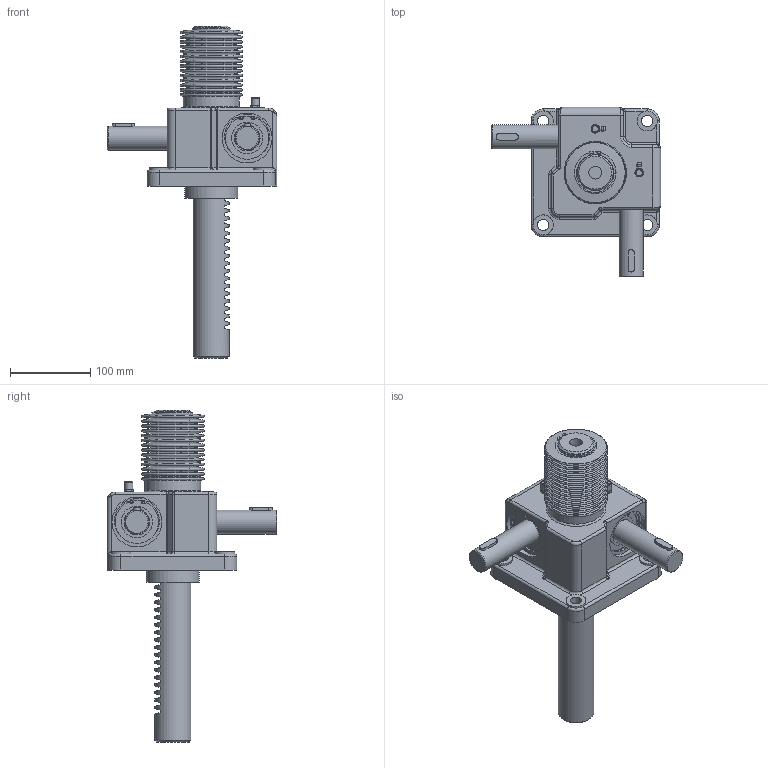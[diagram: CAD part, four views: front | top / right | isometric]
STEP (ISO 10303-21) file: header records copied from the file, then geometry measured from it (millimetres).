
FILE_DESCRIPTION(('STEP AP203'),'1');
FILE_NAME('SP1-5000CJ-200ST.stp','2016-08-18T01:50:23',(' '),(' '),'Spatial InterOp 3D',' ',' ');
FILE_SCHEMA(('CONFIG_CONTROL_DESIGN'));
Length unit declared in the file: millimetre
Products named in the file (25): SP1-5000CJ-200ST; SnapRing-42Pie; Rack Gear(SP-5000C); Bellow(SP-5000); Body-Part; Nipple; SnapRing-61Pie; SnapRing-65Pie; Key; Shaft; #858; #875; Du Bush; Gear Box(NSP-5000); RJ05-4SCJ-610X600-100ST_CAP; LABEL-B.1; ___; 파트18; __
Assembly tree (24 placements, depth 6):
  SP1-5000CJ-200ST
    SnapRing-42Pie
    Rack Gear(SP-5000C)
    Bellow(SP-5000)
    Body-Part
      Nipple
      Nipple
      SnapRing-61Pie
      SnapRing-61Pie
      SnapRing-65Pie
      SnapRing-65Pie
      Key
      Key
      Shaft
      Shaft
      #858
      #875
      Du Bush
      Du Bush
      Gear Box(NSP-5000)
      __
        ___
          RJ05-4SCJ-610X600-100ST_CAP
            LABEL-B.1
          파트18
Bounding box: 212 x 212.22 x 415 mm (x, y, z)
Volume: 1870832 mm3; surface area: 513644.6 mm2
Topology: 27 solids, 27 shells, 2633 faces, 7146 edges, 4605 vertices
Faces by surface type: plane 2094, cylinder 293, cone 92, torus 78, sphere 62, bspline 10, revolution 4
Full cylindrical faces by diameter (mm): 2.783 x2, 3.42 x4, 3.642 x4, 5.6 x2, 8 x2, 9.886 x2, 14 x4, 16 x1, 24 x2, 25 x4, 30 x4, 34 x2, 39.2 x4, 42 x1, 45 x18, 50 x1, 54.4 x4, 55 x4, 58 x2, 60 x2, 61 x2, 62 x4, 62.4 x2, 65 x2, 66 x1, 70 x2
Entity records: 82843 total; most frequent: CARTESIAN_POINT 16711, ORIENTED_EDGE 13484, DIRECTION 12803, EDGE_CURVE 6742, LINE 5677, VECTOR 5677, VERTEX_POINT 4503, AXIS2_PLACEMENT_3D 3561
